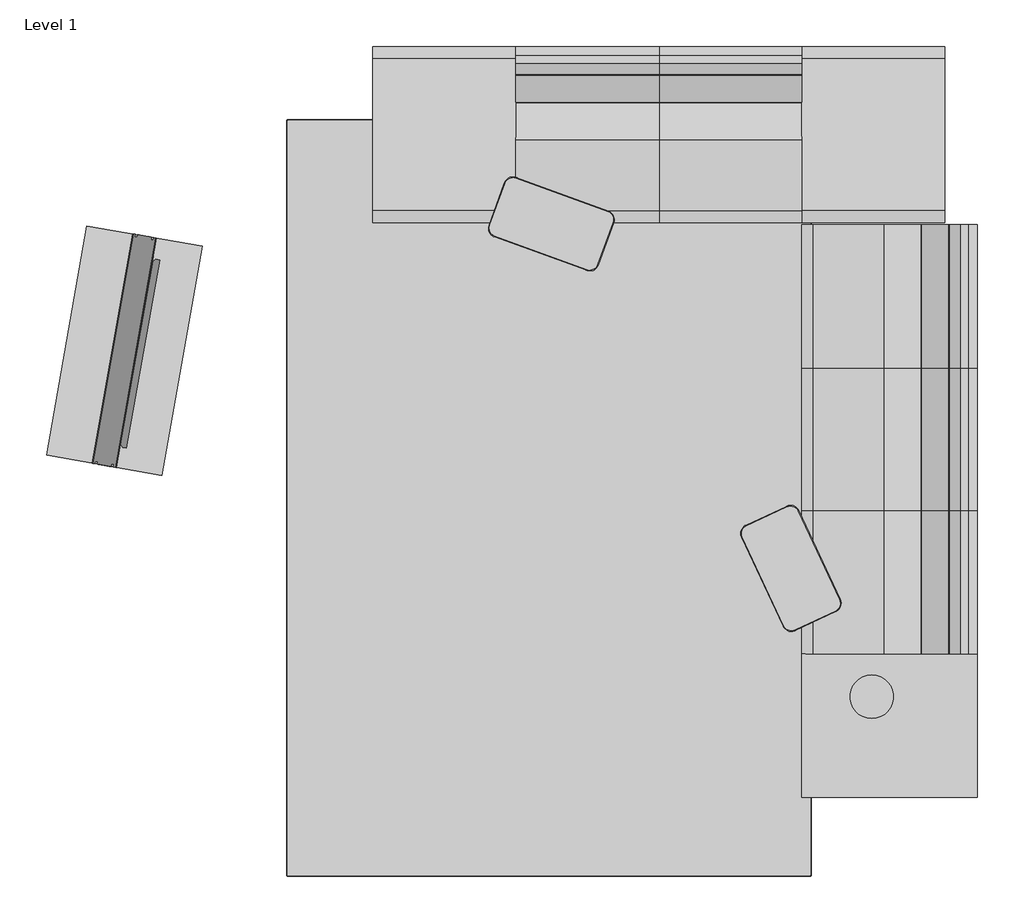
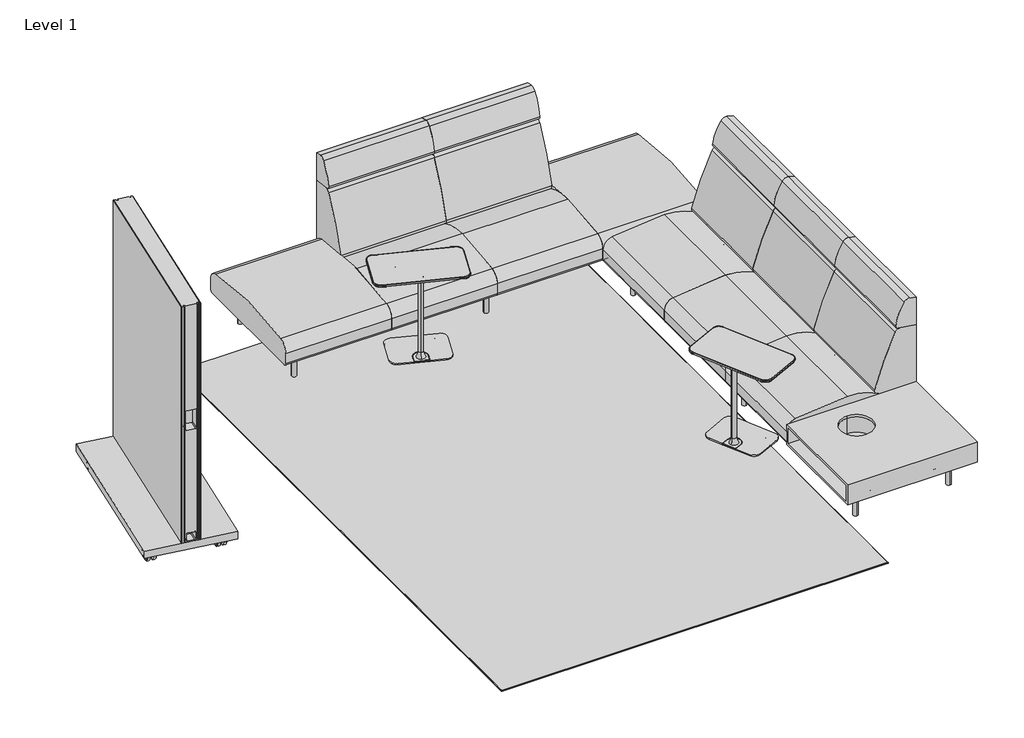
# One storey, incomplete: 8 furniture elements.
"""IFC4 building model written with IfcOpenShell, lengths in millimetres."""

from ifc_helpers import new_model, si_unit, origin, place, context, project, spatial, transform, mapped, element, save
from components import furniture_d2e51079, furniture_46024d2c, furniture_0eeaa3e6, furniture_9ft_x_13ft_89a116fc, steelcase_coalesse_sistema_two_seat_leg_base_two_seat_62bd9cc4, steelcase_coalesse_sistema_two_seat_leg_base_two_seat_b201d908, steelcase_coalesse_sistema_two_seat_leg_base_two_seat_686d7517, steelcase_coalesse_sistema_two_seat_leg_base_two_seat_52fe5814

model = new_model("IFC4")

# Units and contexts
model_context = context("Model", 3, world=origin())
ifc_project = project(units=[si_unit("LENGTHUNIT", "METRE", prefix="MILLI")], contexts=[model_context])

# Site, building, storey
site = spatial("IfcSite", under=ifc_project)
building = spatial("IfcBuilding", under=site)
storey = spatial("IfcBuildingStorey", under=building, Name="Level 1", Elevation=0.0)

# Furniture
placement = place(None, origin())
furniture_shape = furniture_d2e51079(model_context)
element("IfcFurniture", 1, ObjectType="Steelcase Coalesse - Lagunitas - Table - Personal : 13D x 24W", at=placement, inside=storey, context=model_context, shape_type="MappedRepresentation", body=[
    mapped(furniture_shape, transform((-36739.5396395, -158683.8189313, 0.0), x_axis=(-0.42261826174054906, 0.9063077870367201, 0.0), y_axis=(-0.9063077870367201, -0.42261826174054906, 0.0), z_axis=(0.0, 0.0, 1.0))),
])
element("IfcFurniture", 2, ObjectType="Steelcase Coalesse - Lagunitas - Table - Personal : 13D x 24W", at=placement, inside=storey, context=model_context, shape_type="MappedRepresentation", body=[
    mapped(furniture_shape, transform((-37993.154196, -156879.8488112, 0.0), x_axis=(-0.9396926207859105, 0.3420201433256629, 0.0), y_axis=(-0.3420201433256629, -0.9396926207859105, 0.0), z_axis=(0.0, 0.0, 1.0))),
])
furniture_2_shape = furniture_46024d2c(model_context)
furniture_3_shape = furniture_0eeaa3e6(model_context)
element("IfcFurniture", 3, ObjectType="Steelcase Coalesse - Exponents - Storage - Mobile Display Board : Mediaboard", at=placement, inside=storey, context=model_context, shape_type="MappedRepresentation", body=[
    mapped(furniture_2_shape, transform((-40166.4136318, -158173.3421635, 0.0), x_axis=(0.17364817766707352, 0.9848077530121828, 0.0), y_axis=(-0.9848077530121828, 0.17364817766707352, 0.0), z_axis=(0.0, 0.0, 1.0))),
    mapped(furniture_3_shape, transform((-40166.4136318, -158173.3421635, 0.0), x_axis=(0.17364817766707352, 0.9848077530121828, 0.0), y_axis=(-0.9848077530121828, 0.17364817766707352, 0.0), z_axis=(0.0, 0.0, 1.0))),
])
furniture_9ft_x_13ft_shape = furniture_9ft_x_13ft_89a116fc(model_context)
element("IfcFurniture", 4, ObjectType="Steelcase Coalesse - Nanimarquina - Rug - Strokes : 9ft x 13ft", at=placement, inside=storey, context=model_context, shape_type="MappedRepresentation", body=[
    mapped(furniture_9ft_x_13ft_shape, transform((-37435.4124981, -156997.3368481, 0.0), x_axis=(0.0, -1.0, 0.0), y_axis=(1.0, 0.0, 0.0), z_axis=(0.0, 0.0, 1.0))),
])
steelcase_coalesse_sistema_two_seat_leg_base_two_seat_shape = steelcase_coalesse_sistema_two_seat_leg_base_two_seat_62bd9cc4(model_context)
element("IfcFurniture", 5, ObjectType="Steelcase Coalesse - Sistema - Two Seat - Leg Base : Two Seat", at=placement, inside=storey, context=model_context, shape_type="MappedRepresentation", body=[
    mapped(steelcase_coalesse_sistema_two_seat_leg_base_two_seat_shape, transform((-36222.7513958, -157258.8228274, 0.0), x_axis=(0.0, -1.0, 0.0), y_axis=(1.0, 0.0, 0.0), z_axis=(0.0, 0.0, 1.0))),
])
steelcase_coalesse_sistema_two_seat_leg_base_two_seat_2_shape = steelcase_coalesse_sistema_two_seat_leg_base_two_seat_b201d908(model_context)
element("IfcFurniture", 6, ObjectType="Steelcase Coalesse - Sistema - Two Seat - Leg Base : Two Seat", at=placement, inside=storey, context=model_context, shape_type="MappedRepresentation", body=[
    mapped(steelcase_coalesse_sistema_two_seat_leg_base_two_seat_2_shape, transform((-36222.7513958, -158757.4228274, 0.0), x_axis=(0.0, -1.0, 0.0), y_axis=(1.0, 0.0, 0.0), z_axis=(0.0, 0.0, 1.0))),
])
steelcase_coalesse_sistema_two_seat_leg_base_two_seat_3_shape = steelcase_coalesse_sistema_two_seat_leg_base_two_seat_686d7517(model_context)
element("IfcFurniture", 7, ObjectType="Steelcase Coalesse - Sistema - Two Seat - Leg Base : Two Seat", at=placement, inside=storey, context=model_context, shape_type="MappedRepresentation", body=[
    mapped(steelcase_coalesse_sistema_two_seat_leg_base_two_seat_3_shape, transform((-38553.4288542, -156410.3284633, 0.0), x_axis=(1.0, 0.0, 0.0), y_axis=(0.0, 1.0, 0.0), z_axis=(0.0, 0.0, 1.0))),
])
steelcase_coalesse_sistema_two_seat_leg_base_two_seat_4_shape = steelcase_coalesse_sistema_two_seat_leg_base_two_seat_52fe5814(model_context)
element("IfcFurniture", 8, ObjectType="Steelcase Coalesse - Sistema - Two Seat - Leg Base : Two Seat", at=placement, inside=storey, context=model_context, shape_type="MappedRepresentation", body=[
    mapped(steelcase_coalesse_sistema_two_seat_leg_base_two_seat_4_shape, transform((-37057.2483565, -156410.3284633, 0.0), x_axis=(1.0, 0.0, 0.0), y_axis=(0.0, 1.0, 0.0), z_axis=(0.0, 0.0, 1.0))),
])

save(model, "model.ifc")
